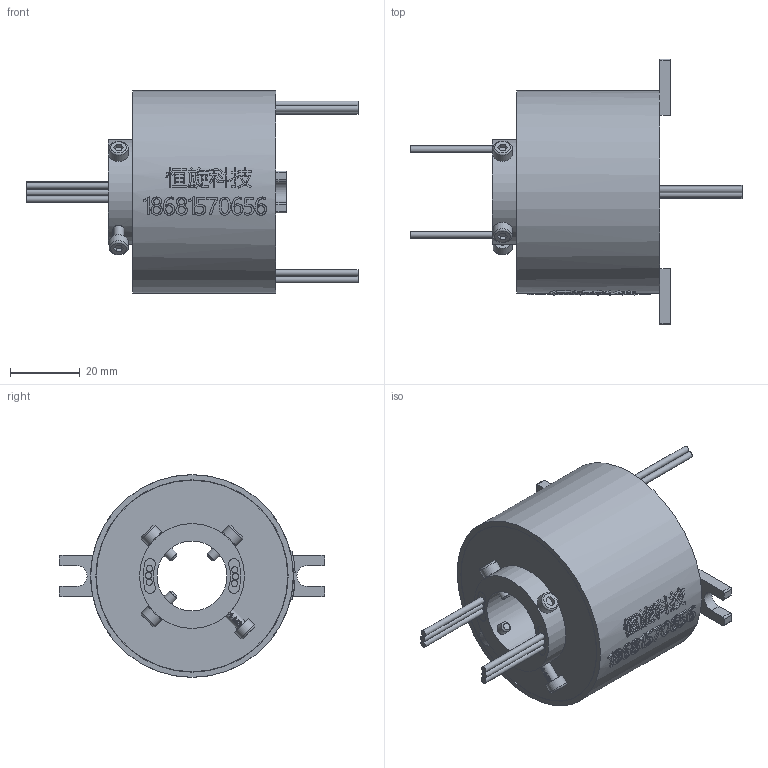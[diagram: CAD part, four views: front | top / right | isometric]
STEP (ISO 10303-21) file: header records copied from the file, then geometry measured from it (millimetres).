
FILE_DESCRIPTION(/* description */ (''),/* implementation_level */ '2;1');
FILE_NAME(/* name */ 'HD2058-0610-3D模型.stp',/* time_stamp */ '2025-08-27T18:06:59+08:00',/* author */ (''),/* organization */ (''),/* preprocessor_version */ 'ST-DEVELOPER v16.7',/* originating_system */ 'SIEMENS PLM Software NX 12.0',/* authorisation */ '');
FILE_SCHEMA (('AUTOMOTIVE_DESIGN { 1 0 10303 214 3 1 1 1 }'));
Length unit declared in the file: millimetre
Products named in the file (1): AdmiC17C83B1ncwx
Bounding box: 95 x 76 x 58 mm (x, y, z)
Volume: 99848.4 mm3; surface area: 20921.5 mm2
Topology: 1 solids, 5 shells, 496 faces, 1227 edges, 819 vertices
Faces by surface type: plane 288, extrusion 86, cylinder 77, bspline 29, cone 12, torus 4
Full cylindrical faces by diameter (mm): 1.8 x12, 2 x4, 2.5 x5, 3 x7, 3.5 x4, 5 x2, 5.5 x4, 20 x1, 30 x1, 30.3 x1, 30.5 x1, 54.8 x1, 55 x1, 58 x1
Entity records: 31812 total; most frequent: CARTESIAN_POINT 21349, ORIENTED_EDGE 2270, DIRECTION 1670, EDGE_CURVE 1135, VERTEX_POINT 797, B_SPLINE_CURVE_WITH_KNOTS 659, EDGE_LOOP 652, AXIS2_PLACEMENT_3D 640
